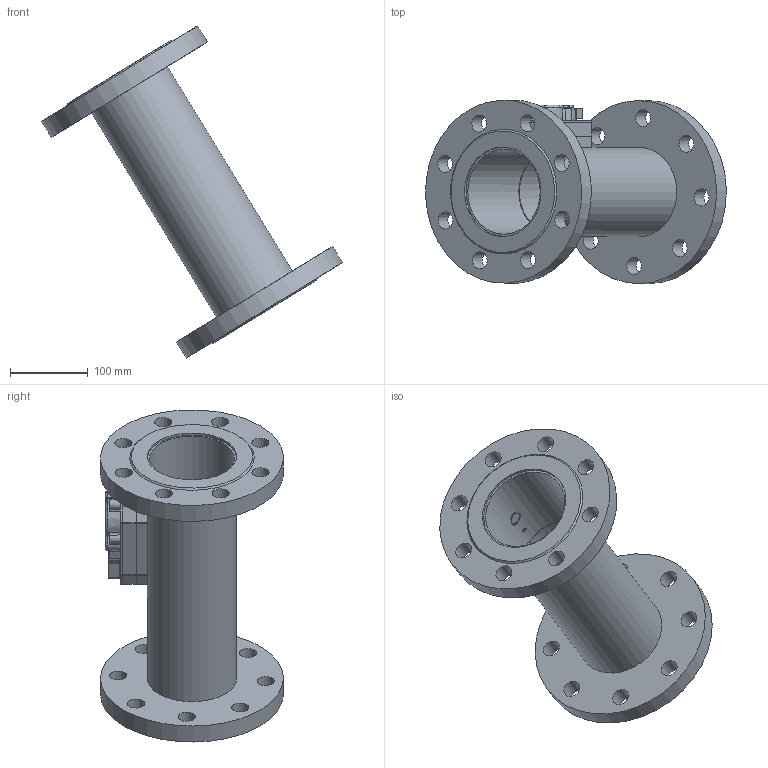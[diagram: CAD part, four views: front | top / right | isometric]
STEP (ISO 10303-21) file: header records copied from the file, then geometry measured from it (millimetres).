
FILE_DESCRIPTION( ( 'Unknown' ), '1' );
FILE_NAME( 'H:/440 pour vente_mai_2013/step_2/DN100_PN25_inox_360mmrempli.stp', 'Unknown', ( 'Unknown' ), ( 'Unknown' ), 'PSStep 15.0.49', 'Unknown', ' ' );
FILE_SCHEMA( ( 'AUTOMOTIVE_DESIGN { 1 0 10303 214 1 1 1 1 }' ) );
Length unit declared in the file: millimetre
Products named in the file (9): 440_tête_rempli; 0440P011_rempli; 0440P012_rempli; 0440P060_rempli; Assem1; 0440P202_rempli; 0440P225_rempli; 0440P208_rempli; 0440P301_rempli
Assembly tree (10 placements, depth 3):
  Assem1
    0440P202_rempli
    0440P225_rempli  x2
    0440P208_rempli
    0440P301_rempli  x2
    440_tête_rempli
      0440P011_rempli
      0440P012_rempli
      0440P060_rempli
Bounding box: 386.11 x 234.98 x 426.24 mm (x, y, z)
Volume: 2297715.4 mm3; surface area: 540796.5 mm2
Topology: 9 solids, 14 shells, 276 faces, 701 edges, 440 vertices
Faces by surface type: cylinder 96, plane 79, cone 57, torus 29, bspline 15
Full cylindrical faces by diameter (mm): 2.2 x1, 2.459 x2, 2.5 x1, 3 x2, 3.242 x4, 4.1 x1, 5.03 x1, 6 x1, 6.2 x6, 6.917 x2, 10.2 x2, 16 x2, 20 x4, 22 x16, 109 x1, 114.3 x1, 115 x2, 235 x2
Entity records: 13578 total; most frequent: CARTESIAN_POINT 5532, DIRECTION 1281, ORIENTED_EDGE 1090, EDGE_CURVE 545, AXIS2_PLACEMENT_3D 538, VERTEX_POINT 377, EDGE_LOOP 362, FACE_OUTER_BOUND 297
